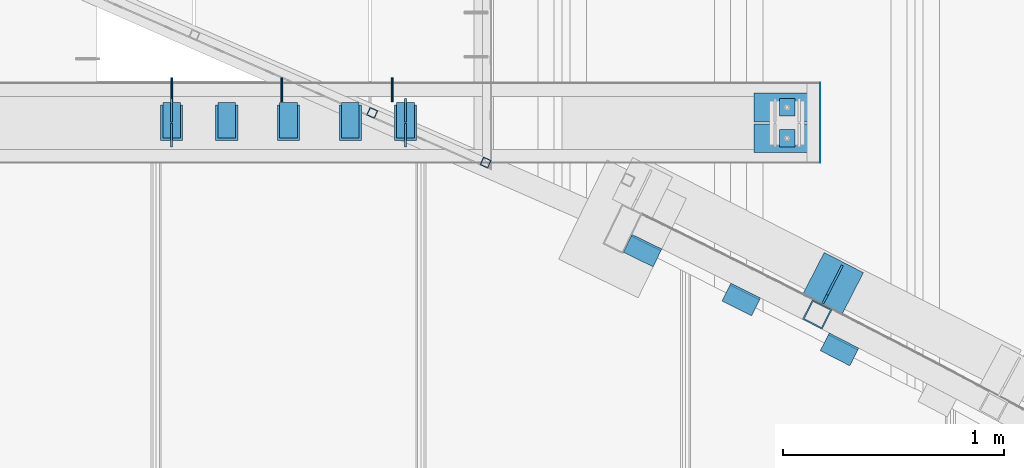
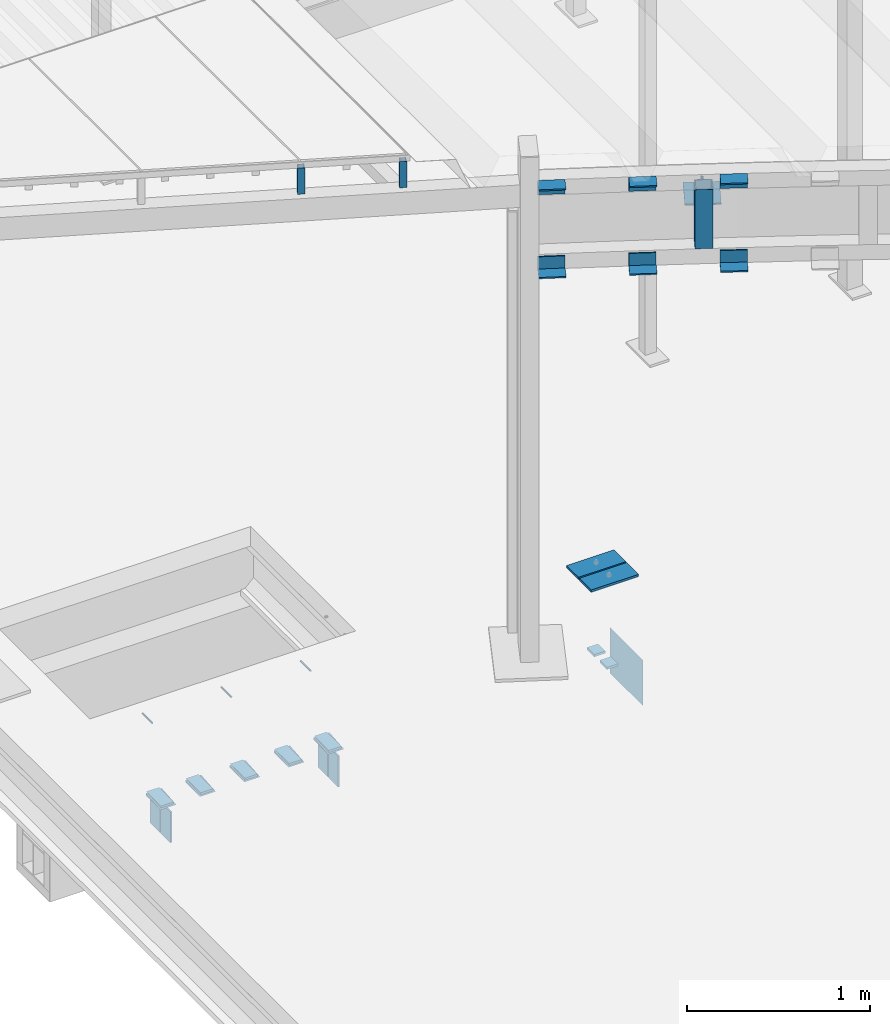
# One storey, part 25 of 98: 33 beams.
"""IFC2X3 building model written with IfcOpenShell, lengths in millimetres."""

from ifc_helpers import new_model, entity, si_unit, converted_unit, derived_unit, direction, frame, origin_with_axes, place, context, subcontext, project, spatial, faceted_brep, material, type_object, element, save


model = new_model("IFC2X3")

# Units and contexts
model_context = context("Model", 3, precision=0.01, world=frame((0.0, 4.29681676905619e-09, 0.0)), true_north=direction((4.01073788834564e-13, 1.0)))
plan_context = context("Plan", 3, precision=0.01, world=frame((0.0, 4.29681676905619e-09, 0.0)), true_north=direction((4.01073788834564e-13, 1.0)))
body_context = subcontext(model_context, "Body", "Model", "MODEL_VIEW")
ifc_project = project(units=[converted_unit("PLANEANGLEUNIT", "DEGREE", entity("IfcPositiveLengthMeasure", 0.0174532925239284), si_unit("PLANEANGLEUNIT", "RADIAN"), dimensions=[0, 0, 0, 0, 0, 0, 0]), si_unit("AREAUNIT", "SQUARE_METRE"), si_unit("LENGTHUNIT", "METRE", prefix="MILLI"), si_unit("MASSUNIT", "GRAM", prefix="KILO"), si_unit("POWERUNIT", "WATT"), si_unit("PRESSUREUNIT", "PASCAL"), si_unit("FORCEUNIT", "NEWTON", prefix="KILO"), si_unit("ELECTRICCURRENTUNIT", "AMPERE"), si_unit("THERMODYNAMICTEMPERATUREUNIT", "DEGREE_CELSIUS"), si_unit("TIMEUNIT", "SECOND"), si_unit("VOLUMEUNIT", "CUBIC_METRE"), derived_unit("LINEARVELOCITYUNIT", [(si_unit("LENGTHUNIT", "METRE"), 1), (si_unit("TIMEUNIT", "SECOND"), -1)]), derived_unit("VOLUMETRICFLOWRATEUNIT", [(si_unit("VOLUMEUNIT", "CUBIC_METRE"), 1), (si_unit("TIMEUNIT", "SECOND"), -1)]), derived_unit("THERMALTRANSMITTANCEUNIT", [(si_unit("POWERUNIT", "WATT"), 1), (si_unit("THERMODYNAMICTEMPERATUREUNIT", "KELVIN"), -1), (si_unit("AREAUNIT", "SQUARE_METRE"), -1)])], contexts=[model_context, plan_context])

# Site, building, storey
site_placement = place(None, frame((0.0, -4.29681676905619e-09, 0.0), z_axis=(0.0, 0.0, 1.0), x_axis=(1.0, 0.0, 0.0)))
site = spatial("IfcSite", under=ifc_project, at=site_placement, Name="Gardermoen", CompositionType="ELEMENT")
building_placement = place(site_placement, frame((0.0, 4.29681676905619e-09, 0.0), z_axis=(0.0, 0.0, 1.0), x_axis=(1.0, 0.0, 0.0)))
building = spatial("IfcBuilding", under=site, at=building_placement, Name="TS", CompositionType="ELEMENT")
storey_placement = place(building_placement, origin_with_axes())
storey = spatial("IfcBuildingStorey", under=building, at=storey_placement, Name="D", CompositionType="ELEMENT", Elevation=0.0)

# Beams
ifc_material = material(Name="STEEL/S355")
beam_type_1 = type_object("IfcBeamType", Name="PL10*200", PredefinedType="NOTDEFINED")
beam_1_placement = place(storey_placement, frame((517806.210387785, 412130.726723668, 206828.0), z_axis=(-0.458297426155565, -0.88879889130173, 0.0), x_axis=(-0.88879889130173, 0.458297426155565, 0.0)))
element("IfcBeam", 1, at=beam_1_placement, inside=storey, type_object=beam_type_1, material=ifc_material, Name="STÅLBJELKE", ObjectType="PL10*200", context=body_context, shape_type="Brep", body=[
    faceted_brep([(0.0, -5.0, 0.0), (-0.454028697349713, -5.0, 209.566192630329), (-0.454028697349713, 5.0, 209.566192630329), (0.0, 5.0, 0.0), (199.544097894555, -5.0, 210.432800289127), (199.544097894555, 5.0, 210.432800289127), (200.0, -5.0, 0.0), (200.0, 5.0, -5.82076609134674e-11)], [[[0, 1, 2, 3]], [[1, 4, 5, 2]], [[4, 6, 7, 5]], [[6, 0, 3, 7]], [[5, 7, 3, 2]], [[6, 4, 1, 0]]]),
])
beam_type_2 = type_object("IfcBeamType", Name="D12", PredefinedType="NOTDEFINED")
for number, where, z_axis, x_axis in (
    (2, (514669.996593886, 413014.999991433, 203840.0), (-1.0, 0.0, 0.0), (0.0, -1.0, 0.0)),
    (3, (515169.996593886, 413014.999991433, 203840.0), (-1.0, 0.0, 0.0), (0.0, -1.0, 0.0)),
    (4, (515669.996593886, 413014.999991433, 203840.0), (-1.0, 0.0, 0.0), (0.0, -1.0, 0.0)),
):
    element("IfcBeam", number, at=place(storey_placement, frame(where, z_axis=z_axis, x_axis=x_axis)), inside=storey, type_object=beam_type_2, material=ifc_material, Name="STÅLBJELKE", ObjectType="D12", context=body_context, shape_type="Brep", body=[
        faceted_brep([(-5.82076609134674e-11, -6.00000000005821, 0.0), (1.16415321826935e-10, -4.24264068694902, -4.24264068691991), (110.0, -4.24264068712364, -4.24264068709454), (110.0, -6.0, 0.0), (1.16415321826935e-10, 2.91038304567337e-10, -5.99999999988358), (110.0, 0.0, -6.0), (0.0, 4.24264068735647, -4.24264068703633), (110.0, 4.24264068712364, -4.24264068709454), (0.0, 5.99999999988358, 0.0), (110.0, 6.0, 0.0), (-2.3283064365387e-10, 4.2426406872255, 4.24264068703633), (110.0, 4.24264068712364, 4.24264068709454), (-3.49245965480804e-10, -5.82076609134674e-11, 5.99999999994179), (110.0, 0.0, 6.0), (-1.16415321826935e-10, -4.2426406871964, 4.24264068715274), (110.0, -4.24264068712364, 4.24264068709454)], [[[0, 1, 2, 3]], [[1, 4, 5, 2]], [[4, 6, 7, 5]], [[6, 8, 9, 7]], [[8, 10, 11, 9]], [[10, 12, 13, 11]], [[12, 14, 15, 13]], [[14, 0, 3, 15]], [[5, 7, 9, 11, 13, 15, 3, 2]], [[14, 12, 10, 8, 6, 4, 1, 0]]]),
    ])
beam_type_3 = type_object("IfcBeamType", Name="RHS40*4", PredefinedType="NOTDEFINED")
for number, where, z_axis, x_axis in (
    (5, (516093.59049393, 412629.802760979, 207100.0), (-0.913453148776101, 0.406943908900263, 0.0), (0.0, 0.0, 1.0)),
    (6, (515579.447413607, 412855.207980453, 207100.0), (-0.913453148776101, 0.406943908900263, 0.0), (0.0, 0.0, 1.0)),
):
    element("IfcBeam", number, at=place(storey_placement, frame(where, z_axis=z_axis, x_axis=x_axis)), inside=storey, type_object=beam_type_3, material=ifc_material, Name="STÅLBJELKE", ObjectType="RHS40*4", context=body_context, shape_type="Brep", body=[
        faceted_brep([(0.0, 16.0, -16.0), (0.0, -16.0000000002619, -16.0000000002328), (175.0, -16.0, -16.0), (175.0, 16.0, -16.0), (0.0, -15.999999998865, 16.0), (175.0, -16.0, 16.0), (0.0, 16.0000000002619, 16.0000000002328), (175.0, 16.0, 16.0), (0.0, 20.0, -20.0), (0.0, 20.0, 20.0), (175.0, 20.0, 20.0), (175.0, 20.0, -20.0), (0.0, -19.9999999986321, 20.0), (175.0, -20.0, 20.0), (0.0, -20.0, -20.0), (175.0, -20.0, -20.0)], [[[0, 1, 2, 3]], [[1, 4, 5, 2]], [[4, 6, 7, 5]], [[6, 0, 3, 7]], [[8, 9, 10, 11]], [[9, 12, 13, 10]], [[12, 14, 15, 13]], [[14, 8, 11, 15]], [[13, 15, 11, 10], [5, 7, 3, 2]], [[14, 12, 9, 8], [6, 4, 1, 0]]]),
    ])
beam_type_4 = type_object("IfcBeamType", Name="L90*9", PredefinedType="NOTDEFINED")
for number, where, z_axis, x_axis in (
    (7, (517764.634928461, 411748.673683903, 207055.0), (0.0, 0.0, -1.0), (-0.889209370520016, 0.457500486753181, 0.0)),
    (8, (517319.618425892, 411975.596362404, 207055.0), (0.0, 0.0, -1.0), (-0.893902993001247, 0.448260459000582, 0.0)),
    (9, (516872.473257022, 412197.812491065, 207055.0), (0.0, 0.0, -1.0), (-0.898470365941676, 0.439034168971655, 0.0)),
    (10, (517764.634928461, 411748.673683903, 206550.0), (-0.457500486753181, -0.889209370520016, 0.0), (-0.889209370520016, 0.457500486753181, 0.0)),
    (11, (517319.618425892, 411975.596362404, 206550.0), (-0.448260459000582, -0.893902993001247, 0.0), (-0.893902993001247, 0.448260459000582, 0.0)),
    (12, (516872.473257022, 412197.812491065, 206550.0), (-0.439034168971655, -0.898470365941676, 0.0), (-0.898470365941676, 0.439034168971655, 0.0)),
):
    element("IfcBeam", number, at=place(storey_placement, frame(where, z_axis=z_axis, x_axis=x_axis)), inside=storey, type_object=beam_type_4, material=ifc_material, Name="STÅLBJELKE", ObjectType="L90*9", context=body_context, shape_type="Brep", body=[
        faceted_brep([(3.49245965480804e-10, 45.0, -45.0), (-3.20142135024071e-10, 45.0, 45.0), (150.176599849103, 44.999999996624, 45.0), (150.176599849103, 44.999999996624, -45.0), (6.98491930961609e-10, 36.0, 45.0000000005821), (150.176599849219, 35.999999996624, 45.0), (-4.07453626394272e-10, 36.0, -36.0000000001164), (150.176599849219, 35.999999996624, -36.0), (-5.23868948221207e-10, -45.0, -36.0000000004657), (150.176599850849, -45.0000000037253, -36.0), (3.49245965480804e-10, -45.0, -45.0), (150.176599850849, -45.0000000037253, -45.0)], [[[0, 1, 2, 3]], [[1, 4, 5, 2]], [[4, 6, 7, 5]], [[6, 8, 9, 7]], [[8, 10, 11, 9]], [[10, 0, 3, 11]], [[5, 7, 9, 11, 3, 2]], [[10, 8, 6, 4, 1, 0]]]),
    ])
beam_type_5 = type_object("IfcBeamType", Name="PL305*1", PredefinedType="NOTDEFINED")
beam_2_placement = place(storey_placement, frame((517610.499766, 412628.999991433, 203247.5), z_axis=(0.0, 0.0, 1.0), x_axis=(0.0, 1.0, 0.0)))
element("IfcBeam", 13, at=beam_2_placement, inside=storey, type_object=beam_type_5, material=ifc_material, Name="STÅLBJELKE", ObjectType="PL305*1", context=body_context, shape_type="Brep", body=[
    faceted_brep([(0.0, 0.5, -152.5), (0.0, 0.5, 152.5), (361.999999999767, 0.5, 152.5), (361.999999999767, 0.5, -152.5), (0.0, -0.5, 152.5), (361.999999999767, -0.5, 152.5), (0.0, -0.5, -152.5), (361.999999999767, -0.5, -152.5)], [[[0, 1, 2, 3]], [[1, 4, 5, 2]], [[4, 6, 7, 5]], [[6, 0, 3, 7]], [[5, 7, 3, 2]], [[6, 4, 1, 0]]]),
])
beam_type_6 = type_object("IfcBeamType", Name="PL10*150", PredefinedType="NOTDEFINED")
beam_3_placement = place(storey_placement, frame((517710.913856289, 412164.057079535, 206983.0), z_axis=(-0.456352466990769, -0.889799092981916, 0.0), x_axis=(0.0, 0.0, -1.0)))
element("IfcBeam", 14, at=beam_3_placement, inside=storey, type_object=beam_type_6, material=ifc_material, Name="STÅLBJELKE", ObjectType="PL10*150", context=body_context, shape_type="Brep", body=[
    faceted_brep([(0.0, -5.0, 150.0), (2.91038304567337e-11, -5.0000000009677, 195.946411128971), (2.91038304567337e-11, 4.99999999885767, 195.946411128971), (0.0, 5.0, 150.0), (150.0, -5.0000000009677, 195.946411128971), (150.0, 4.99999999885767, 195.946411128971), (150.0, -4.99999999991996, 0.0), (150.0, 4.99999999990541, 1.16415321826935e-10), (99.9999999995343, -4.99999999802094, 7.21774995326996e-09), (99.9999999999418, 5.00000000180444, 6.81029632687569e-09)], [[[0, 1, 2, 3]], [[1, 4, 5, 2]], [[4, 6, 7, 5]], [[6, 8, 9, 7]], [[8, 0, 3, 9]], [[5, 7, 9, 3, 2]], [[8, 6, 4, 1, 0]]]),
])
beam_type_7 = type_object("IfcBeamType", Name="PL106.25*10", PredefinedType="NOTDEFINED")
for number, where, z_axis, x_axis in (
    (15, (515730.000234, 412866.875, 203167.0), (0.0, -1.0, 0.0), (0.0, 0.0, 1.0)),
    (16, (515730.000234, 412753.125, 203167.0), (0.0, 1.0, 0.0), (0.0, 0.0, 1.0)),
    (17, (514670.000234, 412866.875, 203167.0), (0.0, -1.0, 0.0), (0.0, 0.0, 1.0)),
    (18, (514670.000234, 412753.125, 203167.0), (0.0, 1.0, 0.0), (0.0, 0.0, 1.0)),
):
    element("IfcBeam", number, at=place(storey_placement, frame(where, z_axis=z_axis, x_axis=x_axis)), inside=storey, type_object=beam_type_7, material=ifc_material, Name="STÅLBJELKE", ObjectType="PL106.25*10", context=body_context, shape_type="Brep", body=[
        faceted_brep([(0.0, 5.0, -53.125), (0.0, 5.0, 53.125), (206.0, 5.0, 53.125), (206.0, 5.0, -53.125), (0.0, -5.0, 53.125), (206.0, -5.0, 53.125), (0.0, -5.0, -53.125), (206.0, -5.0, -53.125)], [[[0, 1, 2, 3]], [[1, 4, 5, 2]], [[4, 6, 7, 5]], [[6, 0, 3, 7]], [[5, 7, 3, 2]], [[6, 4, 1, 0]]]),
    ])
beam_type_8 = type_object("IfcBeamType", Name="PL80*14", PredefinedType="NOTDEFINED")
for number, where, z_axis, x_axis in (
    (19, (515729.999766, 412901.429991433, 203400.0), (0.0, -0.0871669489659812, 0.996193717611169), (0.0, -0.996193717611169, -0.0871669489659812)),
    (20, (515479.999766, 412901.429991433, 203400.0), (0.0, -0.0871669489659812, 0.996193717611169), (0.0, -0.996193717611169, -0.0871669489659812)),
    (21, (515199.999766, 412901.429991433, 203400.0), (0.0, -0.0871669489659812, 0.996193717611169), (0.0, -0.996193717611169, -0.0871669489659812)),
    (22, (514919.999766, 412901.429991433, 203400.0), (0.0, -0.0871669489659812, 0.996193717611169), (0.0, -0.996193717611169, -0.0871669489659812)),
    (23, (514669.999766, 412901.429991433, 203400.0), (0.0, -0.0871669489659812, 0.996193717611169), (0.0, -0.996193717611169, -0.0871669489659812)),
):
    element("IfcBeam", number, at=place(storey_placement, frame(where, z_axis=z_axis, x_axis=x_axis)), inside=storey, type_object=beam_type_8, material=ifc_material, Name="STÅLBJELKE", ObjectType="PL80*14", context=body_context, shape_type="Brep", body=[
        faceted_brep([(-5.82076609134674e-11, -39.9999999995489, -1.62981450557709e-09), (159.390991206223, -40.0, 13.9467115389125), (159.390991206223, 40.0, 13.9467115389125), (5.82076609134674e-11, 39.9999999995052, 1.51339918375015e-09), (160.611328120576, -40.0, 1.57160684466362e-09), (160.611328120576, 40.0, 1.57160684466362e-09)], [[[0, 1, 2, 3]], [[1, 4, 5, 2]], [[4, 0, 3, 5]], [[5, 3, 2]], [[4, 1, 0]]]),
    ])
beam_type_9 = type_object("IfcBeamType", Name="PL100*14", PredefinedType="NOTDEFINED")
for number, where, z_axis, x_axis in (
    (24, (515729.999766, 412889.999991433, 203385.0), (0.0, -1.0, 0.0), (0.0, 0.0, 1.0)),
    (25, (515479.999766, 412889.999991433, 203385.0), (0.0, -1.0, 0.0), (0.0, 0.0, 1.0)),
    (26, (515199.999766, 412889.999991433, 203385.0), (0.0, -1.0, 0.0), (0.0, 0.0, 1.0)),
    (27, (514919.999766, 412889.999991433, 203385.0), (0.0, -1.0, 0.0), (0.0, 0.0, 1.0)),
    (28, (514669.999766, 412889.999991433, 203385.0), (0.0, -1.0, 0.0), (0.0, 0.0, 1.0)),
):
    element("IfcBeam", number, at=place(storey_placement, frame(where, z_axis=z_axis, x_axis=x_axis)), inside=storey, type_object=beam_type_9, material=ifc_material, Name="STÅLBJELKE", ObjectType="PL100*14", context=body_context, shape_type="Brep", body=[
        faceted_brep([(0.0, -50.0, 0.0), (0.0, -50.0, 160.0), (0.0, 50.0, 160.0), (0.0, 50.0, 0.0), (14.0, -50.0, 0.0), (14.0, 50.0, 0.0)], [[[0, 1, 2, 3]], [[1, 4, 5, 2]], [[4, 0, 3, 5]], [[5, 3, 2]], [[4, 1, 0]]]),
    ])
beam_type_10 = type_object("IfcBeamType", Name="PL130*15", PredefinedType="NOTDEFINED")
for number, where, z_axis, x_axis in (
    (29, (517309.999766, 412879.999991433, 203937.5), (0.0, 1.0, 0.0), (1.0, 0.0, 0.0)),
    (30, (517309.999766, 412739.999991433, 203937.5), (0.0, 1.0, 0.0), (1.0, 0.0, 0.0)),
):
    element("IfcBeam", number, at=place(storey_placement, frame(where, z_axis=z_axis, x_axis=x_axis)), inside=storey, type_object=beam_type_10, material=ifc_material, Name="STÅLSPESIAL", ObjectType="PL130*15", context=body_context, shape_type="Brep", body=[
        faceted_brep([(0.0, 7.5, -65.0), (0.0, 7.5, 65.0), (300.0, 7.5, 65.0), (300.0, 7.5, -65.0), (0.0, -7.5, 65.0), (300.0, -7.5, 65.0), (0.0, -7.5, -65.0), (300.0, -7.5, -65.0)], [[[0, 1, 2, 3]], [[1, 4, 5, 2]], [[4, 6, 7, 5]], [[6, 0, 3, 7]], [[5, 7, 3, 2]], [[6, 4, 1, 0]]]),
    ])
beam_type_11 = type_object("IfcBeamType", Name="PL80*15", PredefinedType="NOTDEFINED")
for number, where, z_axis, x_axis in (
    (31, (517424.999766, 412879.999991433, 203365.5), (0.0, 1.0, 0.0), (1.0, 0.0, 0.0)),
    (32, (517424.999766, 412739.999991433, 203365.5), (0.0, 1.0, 0.0), (1.0, 0.0, 0.0)),
):
    element("IfcBeam", number, at=place(storey_placement, frame(where, z_axis=z_axis, x_axis=x_axis)), inside=storey, type_object=beam_type_11, material=ifc_material, Name="STÅLBJELKE", ObjectType="PL80*15", context=body_context, shape_type="Brep", body=[
        faceted_brep([(0.0, 7.5, -40.0), (0.0, 7.5, 40.0), (70.0, 7.5, 40.0), (70.0, 7.5, -40.0), (0.0, -7.5, 40.0), (70.0, -7.5, 40.0), (0.0, -7.5, -40.0), (70.0, -7.5, -40.0)], [[[0, 1, 2, 3]], [[1, 4, 5, 2]], [[4, 6, 7, 5]], [[6, 0, 3, 7]], [[5, 7, 3, 2]], [[6, 4, 1, 0]]]),
    ])
beam_type_12 = type_object("IfcBeamType", Name="RHS100*6.3", PredefinedType="NOTDEFINED")
beam_4_placement = place(storey_placement, frame((517596.943705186, 411941.52381822, 206605.0), z_axis=(0.891006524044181, -0.453990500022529, 0.0), x_axis=(0.0, 0.0, 1.0)))
element("IfcBeam", 33, at=beam_4_placement, inside=storey, type_object=beam_type_12, material=ifc_material, Name="STÅLBJELKE", ObjectType="RHS100*6.3", context=body_context, shape_type="Brep", body=[
    faceted_brep([(0.0, 43.6999998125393, -43.6999998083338), (0.0, -43.6999998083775, -43.6999998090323), (395.0, -43.6999998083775, -43.6999998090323), (395.0, 43.6999998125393, -43.6999998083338), (0.0, -43.6999998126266, 43.699999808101), (395.0, -43.6999998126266, 43.699999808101), (0.0, 43.6999998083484, 43.6999998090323), (395.0, 43.6999998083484, 43.6999998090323), (4.07453626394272e-10, 50.0, -50.0), (-3.49245965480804e-10, 50.0, 50.0), (394.999999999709, 50.0, 50.0), (394.999999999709, 50.0, -50.0), (-3.49245965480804e-10, -50.0, 50.0), (394.999999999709, -50.0, 50.0), (4.07453626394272e-10, -50.0, -50.0), (394.999999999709, -50.0, -50.0)], [[[0, 1, 2, 3]], [[1, 4, 5, 2]], [[4, 6, 7, 5]], [[6, 0, 3, 7]], [[8, 9, 10, 11]], [[9, 12, 13, 10]], [[12, 14, 15, 13]], [[14, 8, 11, 15]], [[13, 15, 11, 10], [5, 7, 3, 2]], [[14, 12, 9, 8], [6, 4, 1, 0]]]),
])

save(model, "model.ifc")
